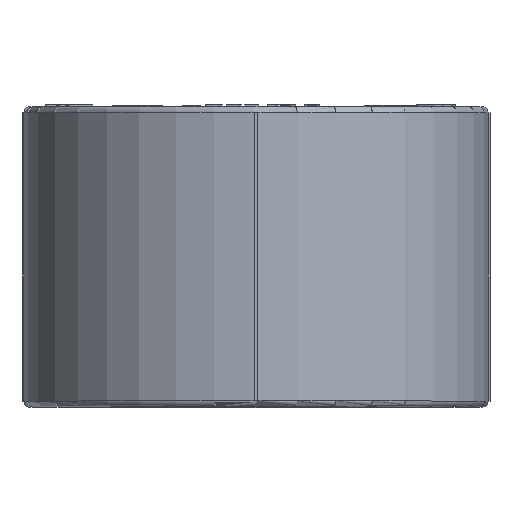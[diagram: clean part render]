
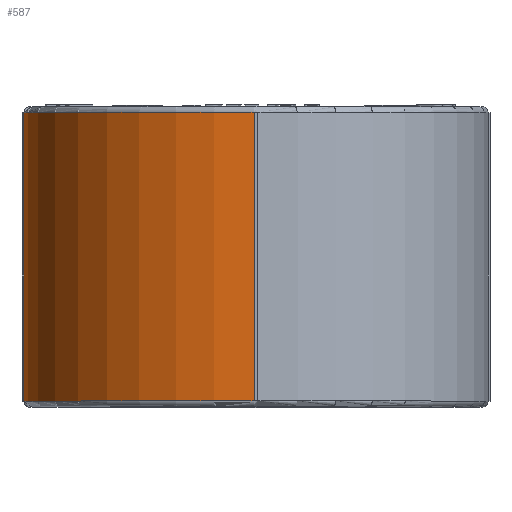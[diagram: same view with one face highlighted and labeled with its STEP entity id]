
A CAD part, top view. The second image highlights one B-rep face of the part: STEP entity #587.
In plain terms, the highlighted cylindrical face has radius 59.5 mm (diameter 119 mm), a partial arc.
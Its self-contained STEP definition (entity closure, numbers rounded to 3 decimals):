
#587=ADVANCED_FACE('',(#4108),#4110,.T.);
#4108=FACE_BOUND('',#4109,.T.);
#4109=EDGE_LOOP('',(#8313,#8314,#8315,#8316));
#4110=CYLINDRICAL_SURFACE('',#4111,59.5);
#4111=AXIS2_PLACEMENT_3D('',#4112,#4113,#4114);
#4112=CARTESIAN_POINT('',(0.,-38.5,0.));
#4113=DIRECTION('',(0.,1.,0.));
#4114=DIRECTION('',(-1.,0.,0.));
#8313=ORIENTED_EDGE('',*,*,#9947,.F.);
#8314=ORIENTED_EDGE('',*,*,#9948,.T.);
#8315=ORIENTED_EDGE('',*,*,#9949,.F.);
#8316=ORIENTED_EDGE('',*,*,#9943,.F.);
#9943=EDGE_CURVE('',#12518,#12520,#12521,.T.);
#9947=EDGE_CURVE('',#12527,#12518,#12528,.T.);
#9948=EDGE_CURVE('',#12527,#12529,#12530,.T.);
#9949=EDGE_CURVE('',#12520,#12529,#12531,.F.);
#12518=VERTEX_POINT('',#18151);
#12520=VERTEX_POINT('',#18156);
#12521=CIRCLE('',#18157,59.5);
#12527=VERTEX_POINT('',#18175);
#12528=LINE('',#18176,#18177);
#12529=VERTEX_POINT('',#18179);
#12530=CIRCLE('',#18180,59.5);
#12531=LINE('',#18184,#18185);
#18151=CARTESIAN_POINT('',(-59.498,37.,0.5));
#18156=CARTESIAN_POINT('',(-0.5,37.,59.498));
#18157=AXIS2_PLACEMENT_3D('',#18158,#18159,#18160);
#18158=CARTESIAN_POINT('',(0.,37.,0.));
#18159=DIRECTION('',(0.,1.,0.));
#18160=DIRECTION('',(-1.,0.,0.008));
#18175=CARTESIAN_POINT('',(-59.498,-37.,0.5));
#18176=CARTESIAN_POINT('',(-59.498,-37.,0.5));
#18177=VECTOR('',#18178,1.);
#18178=DIRECTION('',(0.,1.,0.));
#18179=CARTESIAN_POINT('',(-0.5,-37.,59.498));
#18180=AXIS2_PLACEMENT_3D('',#18181,#18182,#18183);
#18181=CARTESIAN_POINT('',(0.,-37.,0.));
#18182=DIRECTION('',(0.,1.,0.));
#18183=DIRECTION('',(-1.,0.,0.008));
#18184=CARTESIAN_POINT('',(-0.5,-37.,59.498));
#18185=VECTOR('',#18186,1.);
#18186=DIRECTION('',(0.,1.,0.));
